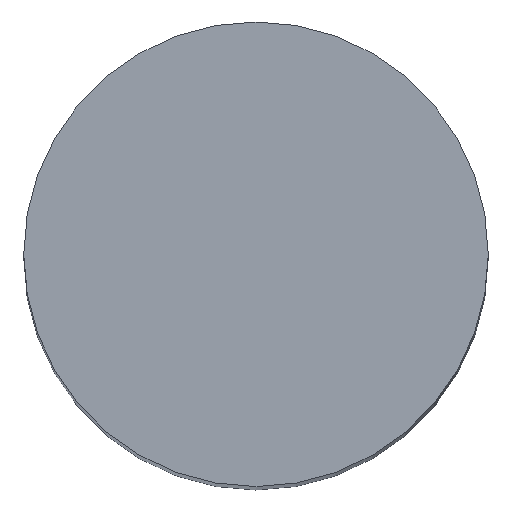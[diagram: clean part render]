
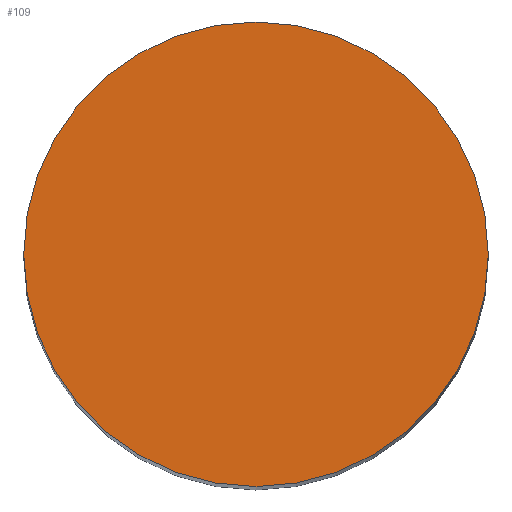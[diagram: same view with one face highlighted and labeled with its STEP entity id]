
A CAD part, top view. The second image highlights one B-rep face of the part: STEP entity #109.
In plain terms, the highlighted planar face has unit normal (0, 0, 1).
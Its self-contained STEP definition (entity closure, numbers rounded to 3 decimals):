
#24 = VERTEX_POINT('',#25);
#25 = CARTESIAN_POINT('',(1.,-31.5,11.65));
#32 = CYLINDRICAL_SURFACE('',#33,1.);
#33 = AXIS2_PLACEMENT_3D('',#34,#35,#36);
#34 = CARTESIAN_POINT('',(0.,-31.5,3.15));
#35 = DIRECTION('',(-0.,-0.,-1.));
#36 = DIRECTION('',(1.,0.,0.));
#51 = EDGE_CURVE('',#24,#24,#52,.T.);
#52 = SURFACE_CURVE('',#53,(#58,#65),.PCURVE_S1.);
#53 = CIRCLE('',#54,1.);
#54 = AXIS2_PLACEMENT_3D('',#55,#56,#57);
#55 = CARTESIAN_POINT('',(0.,-31.5,11.65));
#56 = DIRECTION('',(0.,0.,1.));
#57 = DIRECTION('',(1.,0.,0.));
#58 = PCURVE('',#32,#59);
#59 = DEFINITIONAL_REPRESENTATION('',(#60),#64);
#60 = LINE('',#61,#62);
#61 = CARTESIAN_POINT('',(-0.,-8.5));
#62 = VECTOR('',#63,1.);
#63 = DIRECTION('',(-1.,0.));
#64 = ( GEOMETRIC_REPRESENTATION_CONTEXT(2) 
PARAMETRIC_REPRESENTATION_CONTEXT() REPRESENTATION_CONTEXT('2D SPACE',''
  ) );
#65 = PCURVE('',#66,#71);
#66 = PLANE('',#67);
#67 = AXIS2_PLACEMENT_3D('',#68,#69,#70);
#68 = CARTESIAN_POINT('',(0.,-31.5,11.65));
#69 = DIRECTION('',(0.,0.,1.));
#70 = DIRECTION('',(1.,0.,-0.));
#71 = DEFINITIONAL_REPRESENTATION('',(#72),#76);
#72 = CIRCLE('',#73,1.);
#73 = AXIS2_PLACEMENT_2D('',#74,#75);
#74 = CARTESIAN_POINT('',(0.,0.));
#75 = DIRECTION('',(1.,0.));
#76 = ( GEOMETRIC_REPRESENTATION_CONTEXT(2) 
PARAMETRIC_REPRESENTATION_CONTEXT() REPRESENTATION_CONTEXT('2D SPACE',''
  ) );
#109 = ADVANCED_FACE('',(#110),#66,.T.);
#110 = FACE_BOUND('',#111,.T.);
#111 = EDGE_LOOP('',(#112));
#112 = ORIENTED_EDGE('',*,*,#51,.T.);
